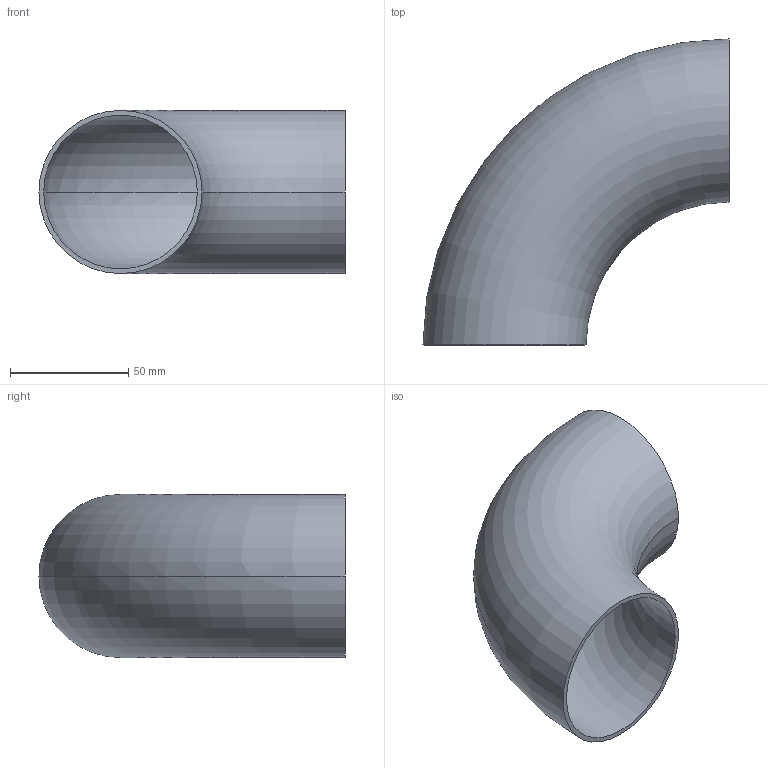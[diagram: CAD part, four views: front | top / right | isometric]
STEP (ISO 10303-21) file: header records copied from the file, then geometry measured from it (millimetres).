
FILE_DESCRIPTION (( 'STEP AP203' ), '1' );
FILE_NAME ('OT212-65-69x2_OSTP.step', '2020-12-16T02:28:34', ( '' ), ( '' ), 'SwSTEP 2.0', 'SolidWorks 2014', '' );
FILE_SCHEMA (( 'CONFIG_CONTROL_DESIGN' ));
Length unit declared in the file: millimetre
Products named in the file (1): OT212-65-69x2_OSTP
Bounding box: 129.5 x 129.5 x 69 mm (x, y, z)
Volume: 62820 mm3; surface area: 63662 mm2
Topology: 1 solids, 1 shells, 6 faces, 12 edges, 8 vertices
Faces by surface type: torus 4, plane 2
Entity records: 249 total; most frequent: DIRECTION 38, CARTESIAN_POINT 27, ORIENTED_EDGE 24, AXIS2_PLACEMENT_3D 19, EDGE_CURVE 12, CIRCLE 12, EDGE_LOOP 8, VERTEX_POINT 8
